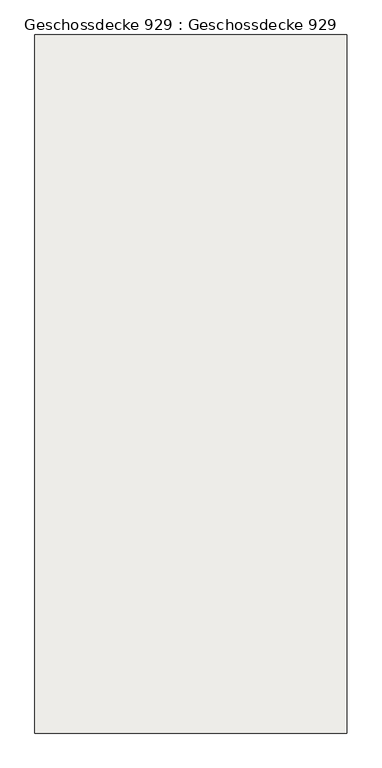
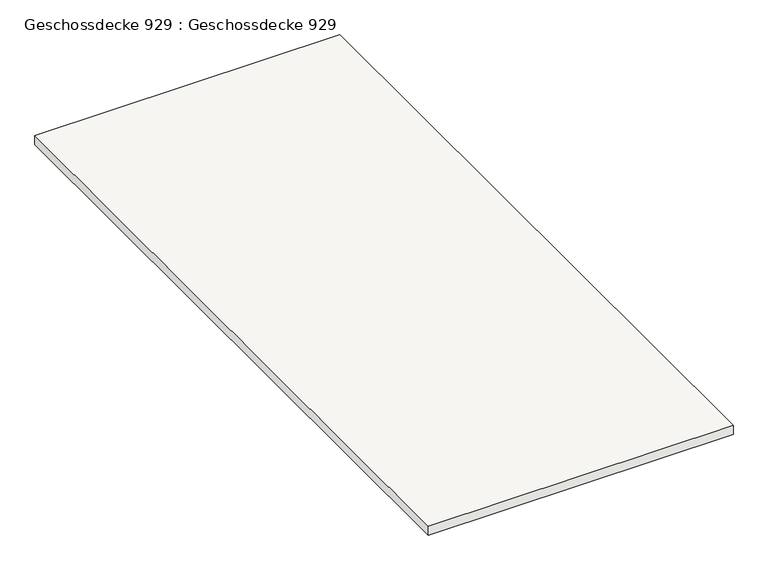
"""IFC4 building model written with IfcOpenShell, lengths in millimetres: slab geometry, Geschossdecke 929 : Geschossdecke 929."""

from ifc_helpers import new_model, si_unit, frame, origin, place, context, project, spatial, polyline, outline, extrude, source, transform, mapped, element, save


def geschossdecke_929_geschossdecke_929_51702491(model_context):
    return source(origin(), model_context, "Body", "SweptSolid", [
        extrude(outline(polyline([(32190.3948776, 10143.2083939), (32190.3948776, 2781.8683939), (28900.0, 2781.8683939), (28900.0, 10143.2083939), (32190.3948776, 10143.2083939)])), frame((0.0, 0.0, 2650.0), z_axis=(0.0, 0.0, 1.0), x_axis=(1.0, 0.0, 0.0)), (0.0, 0.0, 1.0), 100.0),
    ])


if __name__ == "__main__":
    model = new_model("IFC4")
    model_context = context("Model", 3, world=origin())
    ifc_project = project(units=[si_unit("LENGTHUNIT", "METRE", prefix="MILLI")], contexts=[model_context])
    site = spatial("IfcSite", under=ifc_project)
    building = spatial("IfcBuilding", under=site)
    placement = place(None, origin())
    geschossdecke_929_geschossdecke_929_shape = geschossdecke_929_geschossdecke_929_51702491(model_context)
    element("IfcSlab", 1, ObjectType="Geschossdecke 929 : Geschossdecke 929", at=placement, inside=building, context=model_context, shape_type="MappedRepresentation", body=[
        mapped(geschossdecke_929_geschossdecke_929_shape, transform((0.0, 0.0, 0.0), x_axis=(1.0, 0.0, 0.0), y_axis=(0.0, 1.0, 0.0), z_axis=(0.0, 0.0, 1.0))),
    ])
    save(model, "model.ifc")
